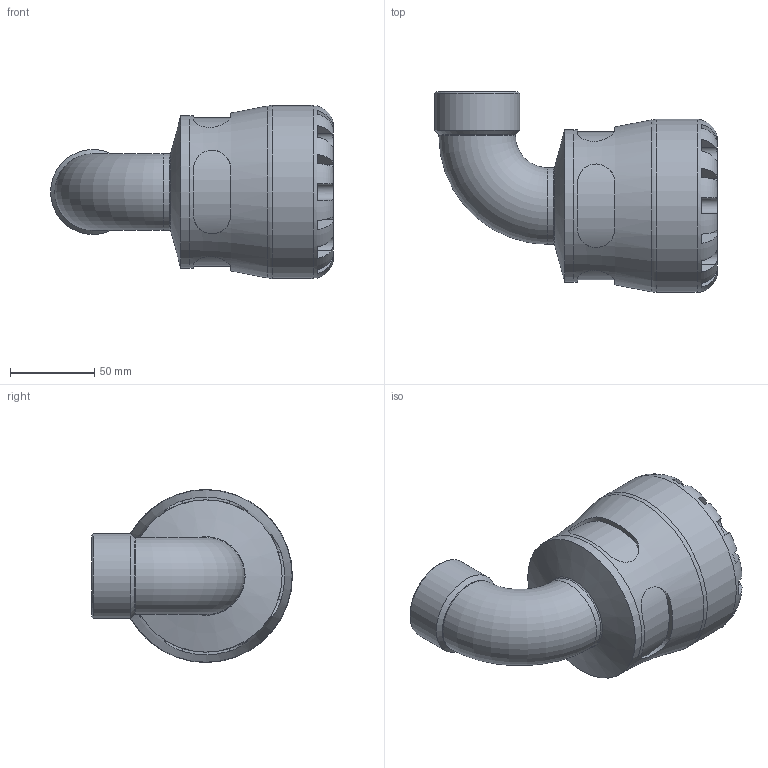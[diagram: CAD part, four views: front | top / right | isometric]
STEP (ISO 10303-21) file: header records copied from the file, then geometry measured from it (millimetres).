
FILE_DESCRIPTION(/* description */ ('PLASSON 90° ELBOW WITH FEMALE INTEGRAL BRASS 63X1.1/4" SERIES 1'),/* implementation_level */ '2;1');
FILE_NAME(/* name */ 'C:\Dropbox\KIMPROJECTS-Inventor\99-16-3568-Processing\S1\1076\107600063013_197600063013.ipt.stp',/* time_stamp */ '2018-05-13T11:03:05+03:00',/* author */ ('KIM'),/* organization */ (''),/* preprocessor_version */ 'ST-DEVELOPER v15.6',/* originating_system */ 'Autodesk Inventor 2015',/* authorisation */ '');
FILE_SCHEMA (('AUTOMOTIVE_DESIGN { 1 0 10303 214 3 1 1 }'));
Length unit declared in the file: millimetre
Products named in the file (1): 107600063013_197600063013
Bounding box: 168.32 x 119.5 x 103 mm (x, y, z)
Volume: 464510.3 mm3; surface area: 87043.5 mm2
Topology: 1 solids, 1 shells, 108 faces, 265 edges, 164 vertices
Faces by surface type: plane 60, cylinder 37, torus 6, cone 5
Full cylindrical faces by diameter (mm): 35.057 x2, 38.952 x1, 45.574 x2, 50.638 x1, 63 x1, 90.64 x1, 103 x1
Entity records: 3980 total; most frequent: CARTESIAN_POINT 1455, DIRECTION 488, ORIENTED_EDGE 478, EDGE_CURVE 239, AXIS2_PLACEMENT_3D 204, VERTEX_POINT 159, EDGE_LOOP 136, STYLED_ITEM 109
